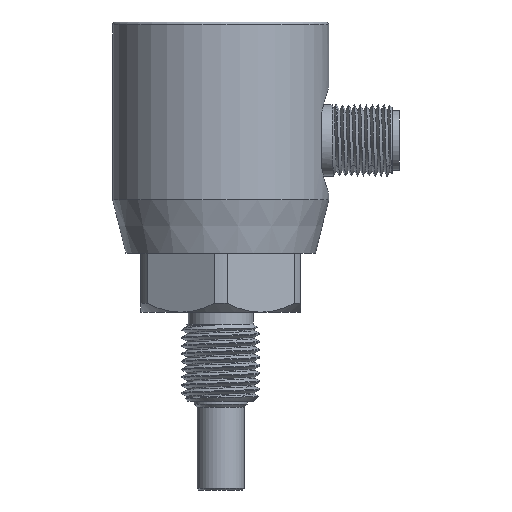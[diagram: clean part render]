
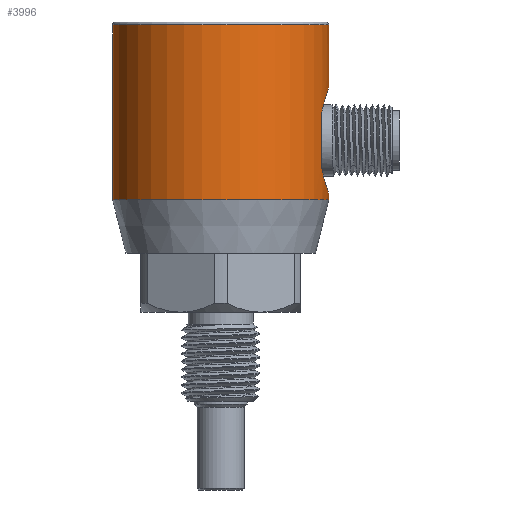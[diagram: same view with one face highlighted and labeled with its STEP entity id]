
A CAD part, left-side view. The second image highlights one B-rep face of the part: STEP entity #3996.
In plain terms, the highlighted cylindrical face has radius 18.25 mm (diameter 36.5 mm), a full revolution.
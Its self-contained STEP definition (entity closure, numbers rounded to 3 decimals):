
#43=LINE('',#18324,#1574);
#44=LINE('',#18328,#1575);
#1574=VECTOR('',#13562,1.);
#1575=VECTOR('',#13565,1.);
#3781=FACE_BOUND('',#5370,.T.);
#3782=FACE_BOUND('',#5371,.T.);
#3783=FACE_BOUND('',#5372,.T.);
#3996=ADVANCED_FACE('',(#3781,#3782,#3783),#4668,.T.);
#4668=CYLINDRICAL_SURFACE('',#12730,18.25);
#5370=EDGE_LOOP('',(#6378,#6379,#6380,#6381));
#5371=EDGE_LOOP('',(#6382));
#5372=EDGE_LOOP('',(#6383));
#6170=CIRCLE('',#12728,18.25);
#6171=CIRCLE('',#12729,18.25);
#6378=ORIENTED_EDGE('',*,*,#10961,.F.);
#6379=ORIENTED_EDGE('',*,*,#10958,.F.);
#6380=ORIENTED_EDGE('',*,*,#10955,.F.);
#6381=ORIENTED_EDGE('',*,*,#10960,.F.);
#6382=ORIENTED_EDGE('',*,*,#10962,.T.);
#6383=ORIENTED_EDGE('',*,*,#10963,.F.);
#9769=VERTEX_POINT('',#18288);
#9770=VERTEX_POINT('',#18289);
#9773=VERTEX_POINT('',#18325);
#9774=VERTEX_POINT('',#18327);
#9775=VERTEX_POINT('',#18341);
#9776=VERTEX_POINT('',#18343);
#10955=EDGE_CURVE('',#9770,#9769,#12670,.T.);
#10958=EDGE_CURVE('',#9769,#9773,#43,.T.);
#10960=EDGE_CURVE('',#9774,#9770,#44,.T.);
#10961=EDGE_CURVE('',#9773,#9774,#12672,.T.);
#10962=EDGE_CURVE('',#9775,#9775,#6170,.T.);
#10963=EDGE_CURVE('',#9776,#9776,#6171,.T.);
#12670=B_SPLINE_CURVE_WITH_KNOTS('',3,(#18290,#18291,#18292,#18293,#18294,
#18295,#18296,#18297,#18298,#18299),.UNSPECIFIED.,.F.,.F.,(4,2,2,2,4),(0.,
0.25,0.5,0.75,1.),.UNSPECIFIED.);
#12672=B_SPLINE_CURVE_WITH_KNOTS('',3,(#18330,#18331,#18332,#18333,#18334,
#18335,#18336,#18337,#18338,#18339),.UNSPECIFIED.,.F.,.F.,(4,2,2,2,4),(0.,
0.25,0.5,0.75,1.),.UNSPECIFIED.);
#12728=AXIS2_PLACEMENT_3D('',#18340,#13568,#13569);
#12729=AXIS2_PLACEMENT_3D('',#18342,#13570,#13571);
#12730=AXIS2_PLACEMENT_3D('',#18344,#13572,#13573);
#13562=DIRECTION('',(0.,0.,1.));
#13565=DIRECTION('',(0.,0.,-1.));
#13568=DIRECTION('',(0.,0.,1.));
#13569=DIRECTION('',(0.,1.,0.));
#13570=DIRECTION('',(0.,0.,1.));
#13571=DIRECTION('',(-1.,0.,0.));
#13572=DIRECTION('',(0.,0.,-1.));
#13573=DIRECTION('',(0.,-1.,0.));
#18288=CARTESIAN_POINT('',(124.765,-16.95,79.729));
#18289=CARTESIAN_POINT('',(111.235,-16.95,79.729));
#18290=CARTESIAN_POINT('',(111.235,-16.95,79.729));
#18291=CARTESIAN_POINT('',(111.849,-17.195,78.404));
#18292=CARTESIAN_POINT('',(112.75,-17.519,77.243));
#18293=CARTESIAN_POINT('',(115.065,-18.052,75.533));
#18294=CARTESIAN_POINT('',(116.496,-18.249,75.004));
#18295=CARTESIAN_POINT('',(119.471,-18.251,74.996));
#18296=CARTESIAN_POINT('',(120.9,-18.058,75.512));
#18297=CARTESIAN_POINT('',(123.25,-17.52,77.238));
#18298=CARTESIAN_POINT('',(124.15,-17.195,78.402));
#18299=CARTESIAN_POINT('',(124.765,-16.95,79.729));
#18324=CARTESIAN_POINT('',(124.765,-16.95,79.729));
#18325=CARTESIAN_POINT('',(124.765,-16.95,88.271));
#18327=CARTESIAN_POINT('',(111.235,-16.95,88.271));
#18328=CARTESIAN_POINT('',(111.235,-16.95,88.271));
#18330=CARTESIAN_POINT('',(124.765,-16.95,88.271));
#18331=CARTESIAN_POINT('',(124.151,-17.195,89.596));
#18332=CARTESIAN_POINT('',(123.25,-17.519,90.757));
#18333=CARTESIAN_POINT('',(120.935,-18.052,92.467));
#18334=CARTESIAN_POINT('',(119.504,-18.249,92.996));
#18335=CARTESIAN_POINT('',(116.529,-18.251,93.004));
#18336=CARTESIAN_POINT('',(115.1,-18.058,92.488));
#18337=CARTESIAN_POINT('',(112.75,-17.52,90.762));
#18338=CARTESIAN_POINT('',(111.85,-17.195,89.598));
#18339=CARTESIAN_POINT('',(111.235,-16.95,88.271));
#18340=CARTESIAN_POINT('',(118.,0.,74.));
#18341=CARTESIAN_POINT('',(118.,18.25,74.));
#18342=CARTESIAN_POINT('',(118.,0.,103.5));
#18343=CARTESIAN_POINT('',(99.75,0.,103.5));
#18344=CARTESIAN_POINT('',(118.,0.,103.85));
